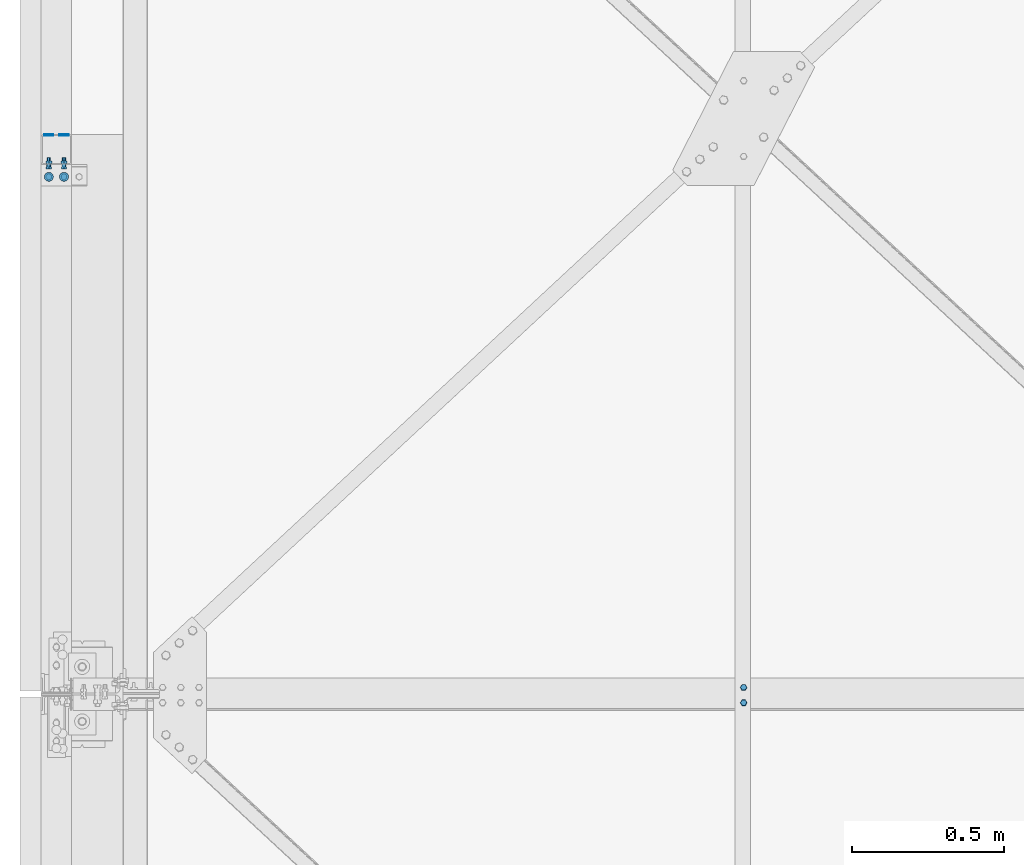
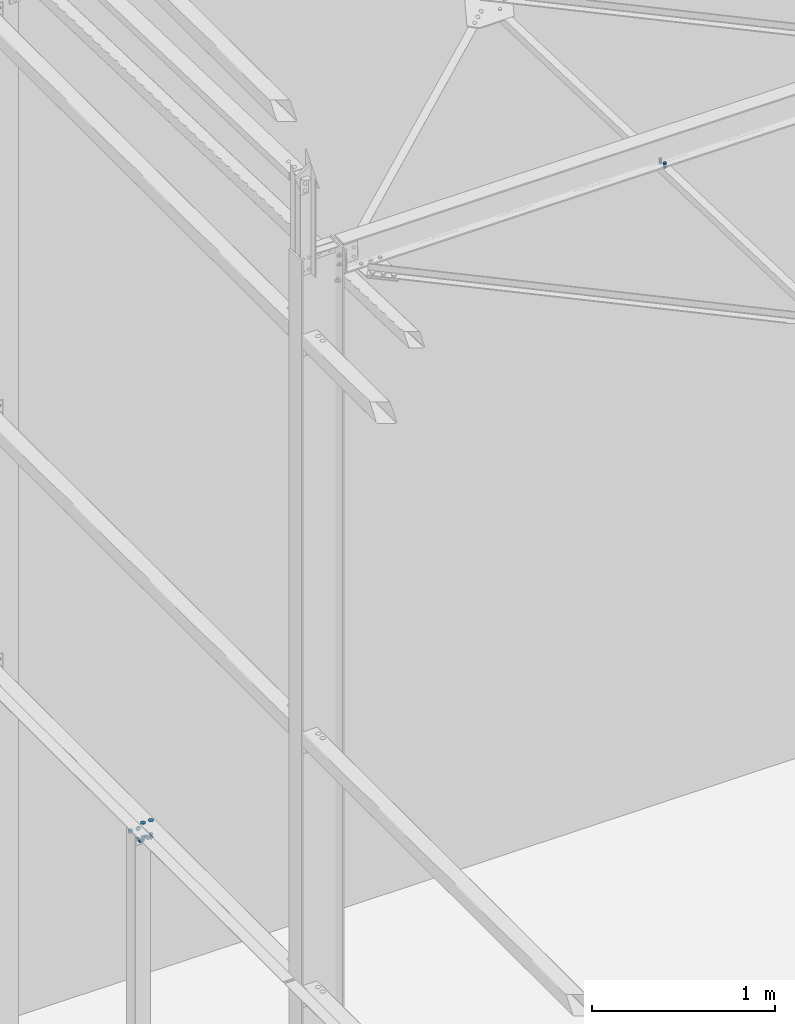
# One storey, part 240 of 362: 5 mechanical fasteners.
"""IFC2X3 building model written with IfcOpenShell, lengths in millimetres."""

from ifc_helpers import new_model, si_unit, frame, frame_2d, origin_with_axes, origin_2d_with_axis, place, context, subcontext, project, spatial, polyline, circle_curve, parameter, trimmed, segment, composite_curve, circle, outline, extrude, source, transform, mapped, material, type_object, element, save


model = new_model("IFC2X3")

# Units and contexts
model_context = context("Model", 3, precision=1e-05, world=origin_with_axes())
body_context = subcontext(model_context, "Body", "Model", "MODEL_VIEW")
ifc_project = project(units=[si_unit("LENGTHUNIT", "METRE", prefix="MILLI"), si_unit("AREAUNIT", "SQUARE_METRE"), si_unit("VOLUMEUNIT", "CUBIC_METRE"), si_unit("MASSUNIT", "GRAM", prefix="KILO"), si_unit("TIMEUNIT", "SECOND"), si_unit("PLANEANGLEUNIT", "RADIAN"), si_unit("SOLIDANGLEUNIT", "STERADIAN"), si_unit("THERMODYNAMICTEMPERATUREUNIT", "DEGREE_CELSIUS"), si_unit("LUMINOUSINTENSITYUNIT", "LUMEN")], contexts=[model_context])

# Site, building, storey
site_placement = place(None, origin_with_axes())
site = spatial("IfcSite", under=ifc_project, at=site_placement, Name="Undefined", CompositionType="ELEMENT")
building_placement = place(site_placement, origin_with_axes())
building = spatial("IfcBuilding", under=site, at=building_placement, Name="Undefined", CompositionType="ELEMENT")
storey_placement = place(building_placement, origin_with_axes())
storey = spatial("IfcBuildingStorey", under=building, at=storey_placement, Name="Undefined", CompositionType="ELEMENT", Elevation=0.0)

# Mechanical fasteners
ifc_material_1 = material(Name="6.8")
mechanical_fastener_type = type_object("IfcMechanicalFastenerType", Name="Bolt assembly")
shared_shape_1 = source(origin_with_axes(), body_context, "Body", "SweptSolid", [
    extrude(circle(Radius=15.0, at=origin_2d_with_axis()), frame((0.0, 0.0, 0.0), z_axis=(0.0, 1.0, 0.0), x_axis=(1.0, 0.0, 0.0)), (0.0, 0.0, 1.0), 4.1),
])
mechanical_fastener_1_placement = place(storey_placement, frame((-129.999996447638, 13105.0066107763, 2860.00000064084), z_axis=(-1.0, 0.0, 0.0), x_axis=(0.0, 1.0, 0.0)))
element("IfcMechanicalFastener", 1, at=mechanical_fastener_1_placement, inside=storey, type_object=mechanical_fastener_type, material=ifc_material_1, Name="Bolt assembly", NominalDiameter=30.0, NominalLength=4.0, context=body_context, shape_type="MappedRepresentation", body=[
    mapped(shared_shape_1, transform((0.0, 0.0, -25.0))),
    mapped(shared_shape_1, transform((0.0, 0.0, 25.0))),
])
shared_shape_2 = source(origin_with_axes(), body_context, "Body", "SweptSolid", [
    extrude(circle(Radius=15.0, at=origin_2d_with_axis()), frame((0.0, -3.99999923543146, 0.0), z_axis=(0.0, 1.0, 0.0), x_axis=(1.0, 0.0, 0.0)), (0.0, 0.0, 1.0), 4.1),
])
mechanical_fastener_2_placement = place(storey_placement, frame((-130.000002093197, 13245.0066102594, 2719.99999984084), z_axis=(-1.0, 0.0, 0.0), x_axis=(0.0, 0.0, 1.0)))
element("IfcMechanicalFastener", 2, at=mechanical_fastener_2_placement, inside=storey, type_object=mechanical_fastener_type, material=ifc_material_1, Name="Bolt assembly", NominalDiameter=30.0, NominalLength=4.0, context=body_context, shape_type="MappedRepresentation", body=[
    mapped(shared_shape_2, transform((0.0, 0.0, -25.0))),
    mapped(shared_shape_2, transform((0.0, 0.0, 25.0))),
])
ifc_material_2 = material(Name="8.8-SB-ZINGUE")
shared_shape_3 = source(origin_with_axes(), body_context, "Body", "SweptSolid", [
    extrude(circle(Radius=7.0, at=origin_2d_with_axis()), frame((0.0, -0.100011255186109, 0.0), z_axis=(0.0, 1.0, 0.0), x_axis=(1.0, 0.0, 0.0)), (0.0, 0.0, 1.0), 4.1),
    extrude(circle(Radius=7.0, at=origin_2d_with_axis()), frame((0.0, -6.9, 0.0), z_axis=(0.0, 1.0, 0.0), x_axis=(1.0, 0.0, 0.0)), (0.0, 0.0, 1.0), 7.0),
    extrude(outline(polyline([(10.39230484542, 0.0), (5.19615242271, 9.00000000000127), (-5.19615242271, 9.00000000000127), (-10.39230484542, 0.0), (-5.19615242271, -9.00000000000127), (5.19615242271, -9.00000000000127), (10.39230484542, 0.0)])), frame((0.0, -14.92, 0.0), z_axis=(0.0, 1.0, 0.0), x_axis=(1.0, 0.0, 0.0)), (0.0, 0.0, 1.0), 7.92),
    extrude(circle(Radius=6.0, at=origin_2d_with_axis()), frame((0.0, -7.0, 0.0), z_axis=(0.0, 1.0, 0.0), x_axis=(1.0, 0.0, 0.0)), (0.0, 0.0, 1.0), 30.0),
    extrude(outline(polyline([(11.5008173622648, 0.0), (5.7504086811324, 9.96000000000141), (-5.7504086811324, 9.96000000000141), (-11.5008173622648, 0.0), (-5.7504086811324, -9.96000000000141), (5.7504086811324, -9.96000000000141), (11.5008173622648, 0.0)])), frame((0.0, 4.00000005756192, 0.0), z_axis=(0.0, 1.0, 0.0), x_axis=(1.0, 0.0, 0.0)), (0.0, 0.0, 1.0), 7.92),
])
mechanical_fastener_3_placement = place(storey_placement, frame((-130.000000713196, 13145.0066102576, 2719.99999984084), z_axis=(-1.0, 0.0, 0.0), x_axis=(0.0, 0.0, 1.0)))
element("IfcMechanicalFastener", 3, at=mechanical_fastener_3_placement, inside=storey, type_object=mechanical_fastener_type, material=ifc_material_2, Name="Bolt assembly", NominalDiameter=12.0, NominalLength=30.0, context=body_context, shape_type="MappedRepresentation", body=[
    mapped(shared_shape_3, transform((0.0, 0.0, -25.0))),
    mapped(shared_shape_3, transform((0.0, 0.0, 25.0))),
])
shared_shape_4 = source(origin_with_axes(), body_context, "Body", "SweptSolid", [
    extrude(circle(Radius=7.0, at=origin_2d_with_axis()), frame((0.0, -8.39654616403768, 0.0), z_axis=(0.0, 1.0, 0.0), x_axis=(1.0, 0.0, 0.0)), (0.0, 0.0, 1.0), 8.5),
    extrude(circle(Radius=7.0, at=origin_2d_with_axis()), frame((0.0, -0.100011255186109, 0.0), z_axis=(0.0, 1.0, 0.0), x_axis=(1.0, 0.0, 0.0)), (0.0, 0.0, 1.0), 5.1),
    extrude(outline(polyline([(10.39230484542, 0.0), (5.19615242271, 9.00000000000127), (-5.19615242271, 9.00000000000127), (-10.39230484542, 0.0), (-5.19615242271, -9.00000000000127), (5.19615242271, -9.00000000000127), (10.39230484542, 0.0)])), frame((0.0, -16.4165461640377, 0.0), z_axis=(0.0, 1.0, 0.0), x_axis=(1.0, 0.0, 0.0)), (0.0, 0.0, 1.0), 7.92),
    extrude(circle(Radius=6.0, at=origin_2d_with_axis()), frame((0.0, -8.49654616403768, 0.0), z_axis=(0.0, 1.0, 0.0), x_axis=(1.0, 0.0, 0.0)), (0.0, 0.0, 1.0), 30.0),
    extrude(outline(polyline([(11.5008173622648, 0.0), (5.7504086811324, 9.96000000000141), (-5.7504086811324, 9.96000000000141), (-11.5008173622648, 0.0), (-5.7504086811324, -9.96000000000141), (5.7504086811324, -9.96000000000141), (11.5008173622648, 0.0)])), frame((0.0, 5.0, 0.0), z_axis=(0.0, 1.0, 0.0), x_axis=(1.0, 0.0, 0.0)), (0.0, 0.0, 1.0), 7.92),
])
mechanical_fastener_4_placement = place(storey_placement, frame((2135.00001266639, 11396.8595005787, 7491.7421888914), z_axis=(0.0, -0.999506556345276, 0.031410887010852), x_axis=(-1.0, 0.0, 0.0)))
element("IfcMechanicalFastener", 4, at=mechanical_fastener_4_placement, inside=storey, type_object=mechanical_fastener_type, material=ifc_material_2, Name="Bolt assembly", NominalDiameter=12.0, NominalLength=30.0, context=body_context, shape_type="MappedRepresentation", body=[
    mapped(shared_shape_4, transform((0.0, 0.0, -25.0))),
    mapped(shared_shape_4, transform((0.0, 0.0, 25.0))),
])
shared_shape_5 = source(origin_with_axes(), body_context, "Body", "SweptSolid", [
    extrude(circle(Radius=7.0, at=origin_2d_with_axis()), frame((0.0, -3.89999843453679, 0.0), z_axis=(0.0, 1.0, 0.0), x_axis=(1.0, 0.0, 0.0)), (0.0, 0.0, 1.0), 4.0),
    extrude(outline(composite_curve([segment(polyline([(-7.0, 7.0), (7.0, 7.0)]), True, "CONTINUOUS"), segment(trimmed(circle_curve(frame_2d((7.0, 0.0), x_axis=(0.0, 1.0)), 7.0), [parameter(0.0)], [parameter(3.14159265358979)], False, "PARAMETER"), True, "CONTINUOUS"), segment(polyline([(7.0, -7.0), (-7.0, -7.0)]), True, "CONTINUOUS"), segment(trimmed(circle_curve(frame_2d((-7.0, 0.0), x_axis=(0.0, -1.0)), 7.0), [parameter(0.0)], [parameter(3.14159265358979)], False, "PARAMETER"), True, "DISCONTINUOUS")], self_intersect=False)), frame((0.0, -0.100011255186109, 0.0), z_axis=(0.0, 1.0, 0.0), x_axis=(1.0, 0.0, 0.0)), (0.0, 0.0, 1.0), 7.1),
    extrude(outline(polyline([(10.39230484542, 0.0), (5.19615242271, 9.00000000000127), (-5.19615242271, 9.00000000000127), (-10.39230484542, 0.0), (-5.19615242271, -9.00000000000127), (5.19615242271, -9.00000000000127), (10.39230484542, 0.0)])), frame((0.0, -11.9199984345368, 0.0), z_axis=(0.0, 1.0, 0.0), x_axis=(1.0, 0.0, 0.0)), (0.0, 0.0, 1.0), 7.92),
    extrude(circle(Radius=6.0, at=origin_2d_with_axis()), frame((0.0, -3.99999923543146, 0.0), z_axis=(0.0, 1.0, 0.0), x_axis=(1.0, 0.0, 0.0)), (0.0, 0.0, 1.0), 30.0),
    extrude(circle(Radius=10.8, at=origin_2d_with_axis()), frame((0.0, 7.0, 0.0), z_axis=(0.0, 1.0, 0.0), x_axis=(1.0, 0.0, 0.0)), (0.0, 0.0, 1.0), 3.96),
    extrude(outline(polyline([(11.5008173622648, 0.0), (5.7504086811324, 9.96000000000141), (-5.7504086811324, 9.96000000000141), (-11.5008173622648, 0.0), (-5.7504086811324, -9.96000000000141), (5.7504086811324, -9.96000000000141), (11.5008173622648, 0.0)])), frame((0.0, 10.96, 0.0), z_axis=(0.0, 1.0, 0.0), x_axis=(1.0, 0.0, 0.0)), (0.0, 0.0, 1.0), 7.92),
])
mechanical_fastener_5_placement = place(storey_placement, frame((-129.999996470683, 13105.0066102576, 2760.00000064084), z_axis=(-1.0, 0.0, 0.0), x_axis=(0.0, 1.0, 0.0)))
element("IfcMechanicalFastener", 5, at=mechanical_fastener_5_placement, inside=storey, type_object=mechanical_fastener_type, material=ifc_material_2, Name="Bolt assembly", NominalDiameter=12.0, NominalLength=30.0, context=body_context, shape_type="MappedRepresentation", body=[
    mapped(shared_shape_5, transform((0.0, 0.0, -25.0))),
    mapped(shared_shape_5, transform((0.0, 0.0, 25.0))),
])

save(model, "model.ifc")
